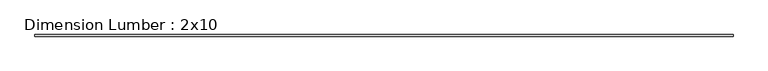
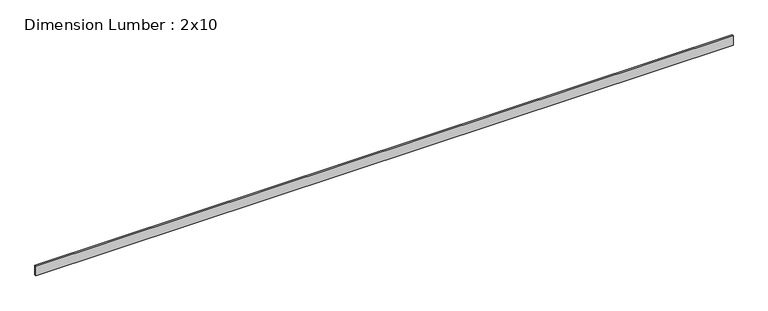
"""IFC4 building model written with IfcOpenShell, lengths in millimetres: beam geometry, Dimension Lumber : 2x10."""

from ifc_helpers import new_model, si_unit, frame, origin, place, context, project, spatial, polyline, outline, extrude, source, transform, mapped, element, save


def dimension_lumber_2x10_3100e007(model_context):
    return source(origin(), model_context, "Body", "SweptSolid", [
        extrude(outline(polyline([(8140.827, 19.05), (8140.827, -19.05), (-8140.827, -19.05), (-8140.827, 19.05), (8140.827, 19.05)])), frame((0.0, 0.0, -117.475), z_axis=(0.0, 0.0, 1.0), x_axis=(1.0, 0.0, 0.0)), (0.0, 0.0, 1.0), 234.95),
    ])


if __name__ == "__main__":
    model = new_model("IFC4")
    model_context = context("Model", 3, world=origin())
    ifc_project = project(units=[si_unit("LENGTHUNIT", "METRE", prefix="MILLI")], contexts=[model_context])
    site = spatial("IfcSite", under=ifc_project)
    building = spatial("IfcBuilding", under=site)
    placement = place(None, origin())
    dimension_lumber_2x10_shape = dimension_lumber_2x10_3100e007(model_context)
    element("IfcBeam", 1, ObjectType="Dimension Lumber : 2x10", at=placement, inside=building, context=model_context, shape_type="MappedRepresentation", body=[
        mapped(dimension_lumber_2x10_shape, transform((0.0, 0.0, 0.0), x_axis=(1.0, 0.0, 0.0), y_axis=(0.0, 1.0, 0.0), z_axis=(0.0, 0.0, 1.0))),
    ])
    save(model, "model.ifc")
